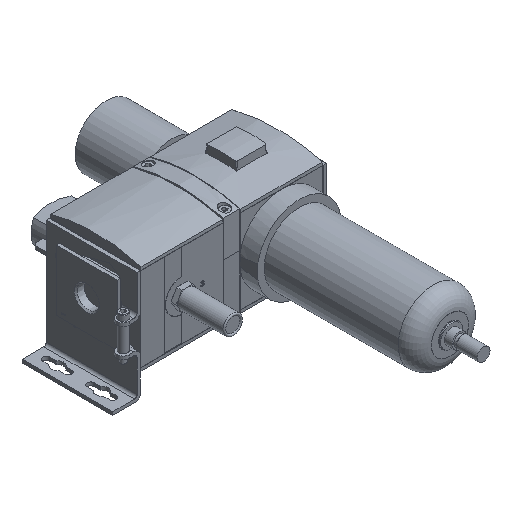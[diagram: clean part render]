
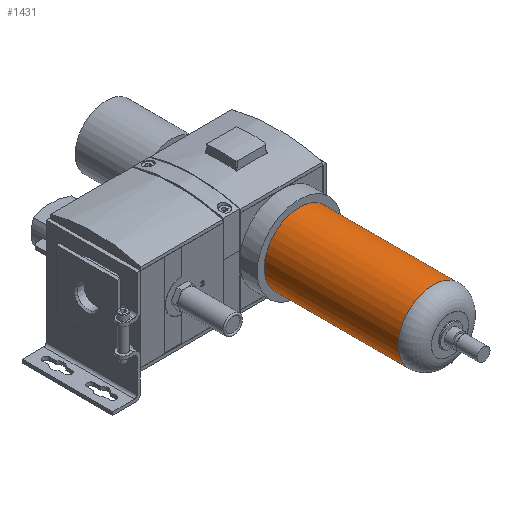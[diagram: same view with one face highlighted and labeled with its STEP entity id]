
A CAD part, isometric view. The second image highlights one B-rep face of the part: STEP entity #1431.
In plain terms, the highlighted cylindrical face has radius 31.75 mm (diameter 63.5 mm), a full revolution.
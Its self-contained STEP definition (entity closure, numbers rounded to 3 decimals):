
#1431 = ADVANCED_FACE( '', ( #3621, #3622 ), #3623, .T. );
#3621 = FACE_OUTER_BOUND( '', #6916, .T. );
#3622 = FACE_OUTER_BOUND( '', #6917, .T. );
#3623 = CYLINDRICAL_SURFACE( '', #6918, 31.75 );
#6916 = EDGE_LOOP( '', ( #10442 ) );
#6917 = EDGE_LOOP( '', ( #10443 ) );
#6918 = AXIS2_PLACEMENT_3D( '', #10444, #10445, #10446 );
#10442 = ORIENTED_EDGE( '', *, *, #19099, .F. );
#10443 = ORIENTED_EDGE( '', *, *, #19100, .T. );
#10444 = CARTESIAN_POINT( '', ( 0., -136.7, 0. ) );
#10445 = DIRECTION( '', ( 0., 1., 0. ) );
#10446 = DIRECTION( '', ( 0., 0., -1. ) );
#19099 = EDGE_CURVE( '', #22678, #22678, #22679, .T. );
#19100 = EDGE_CURVE( '', #22680, #22680, #22681, .T. );
#22678 = VERTEX_POINT( '', #27832 );
#22679 = CIRCLE( '', #27833, 31.75 );
#22680 = VERTEX_POINT( '', #27834 );
#22681 = CIRCLE( '', #27835, 31.75 );
#27832 = CARTESIAN_POINT( '', ( 0., -121.1, -31.75 ) );
#27833 = AXIS2_PLACEMENT_3D( '', #34549, #34550, #34551 );
#27834 = CARTESIAN_POINT( '', ( 0., 0., -31.75 ) );
#27835 = AXIS2_PLACEMENT_3D( '', #34552, #34553, #34554 );
#34549 = CARTESIAN_POINT( '', ( 0., -121.1, 0. ) );
#34550 = DIRECTION( '', ( 0., -1., 0. ) );
#34551 = DIRECTION( '', ( 0., 0., -1. ) );
#34552 = CARTESIAN_POINT( '', ( 0., 0., 0. ) );
#34553 = DIRECTION( '', ( 0., -1., 0. ) );
#34554 = DIRECTION( '', ( 0., 0., -1. ) );
